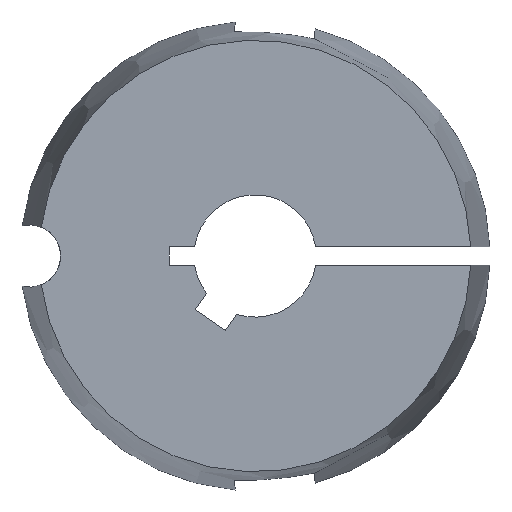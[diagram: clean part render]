
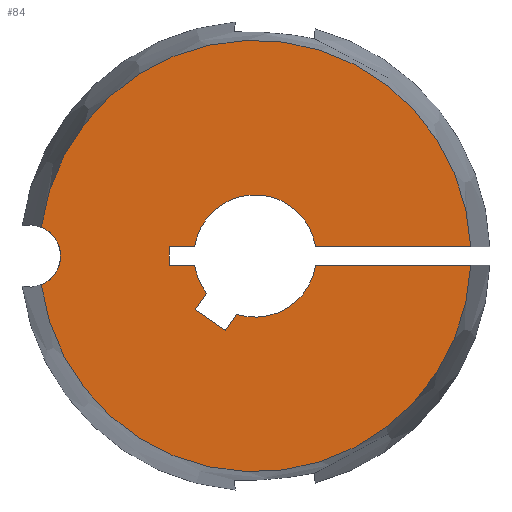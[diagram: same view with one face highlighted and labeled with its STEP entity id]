
A CAD part, left-side view. The second image highlights one B-rep face of the part: STEP entity #84.
In plain terms, the highlighted planar face has unit normal (-1, 0, 0).
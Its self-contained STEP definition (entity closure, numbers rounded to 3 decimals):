
#84 = ADVANCED_FACE( '', ( #114 ), #115, .F. );
#114 = FACE_OUTER_BOUND( '', #154, .T. );
#115 = PLANE( '', #155 );
#154 = EDGE_LOOP( '', ( #251, #252, #253, #254, #255, #256, #257, #258, #259, #260, #261, #262, #263, #264 ) );
#155 = AXIS2_PLACEMENT_3D( '', #265, #266, #267 );
#251 = ORIENTED_EDGE( '', *, *, #349, .T. );
#252 = ORIENTED_EDGE( '', *, *, #381, .F. );
#253 = ORIENTED_EDGE( '', *, *, #352, .T. );
#254 = ORIENTED_EDGE( '', *, *, #365, .T. );
#255 = ORIENTED_EDGE( '', *, *, #363, .T. );
#256 = ORIENTED_EDGE( '', *, *, #360, .T. );
#257 = ORIENTED_EDGE( '', *, *, #369, .T. );
#258 = ORIENTED_EDGE( '', *, *, #382, .T. );
#259 = ORIENTED_EDGE( '', *, *, #383, .T. );
#260 = ORIENTED_EDGE( '', *, *, #384, .T. );
#261 = ORIENTED_EDGE( '', *, *, #385, .T. );
#262 = ORIENTED_EDGE( '', *, *, #386, .T. );
#263 = ORIENTED_EDGE( '', *, *, #354, .T. );
#264 = ORIENTED_EDGE( '', *, *, #387, .F. );
#265 = CARTESIAN_POINT( '', ( -22.3, 0., 0. ) );
#266 = DIRECTION( '', ( 1., 0., 0. ) );
#267 = DIRECTION( '', ( 0., 0., -1. ) );
#349 = EDGE_CURVE( '', #402, #407, #409, .T. );
#352 = EDGE_CURVE( '', #415, #413, #416, .T. );
#354 = EDGE_CURVE( '', #418, #419, #420, .T. );
#360 = EDGE_CURVE( '', #431, #429, #432, .T. );
#363 = EDGE_CURVE( '', #436, #431, #437, .T. );
#365 = EDGE_CURVE( '', #413, #436, #439, .T. );
#369 = EDGE_CURVE( '', #429, #443, #445, .T. );
#381 = EDGE_CURVE( '', #415, #407, #465, .T. );
#382 = EDGE_CURVE( '', #443, #466, #467, .T. );
#383 = EDGE_CURVE( '', #466, #468, #469, .T. );
#384 = EDGE_CURVE( '', #468, #470, #471, .T. );
#385 = EDGE_CURVE( '', #470, #472, #473, .T. );
#386 = EDGE_CURVE( '', #472, #418, #474, .T. );
#387 = EDGE_CURVE( '', #402, #419, #475, .T. );
#402 = VERTEX_POINT( '', #513 );
#407 = VERTEX_POINT( '', #523 );
#409 = CIRCLE( '', #530, 2.55 );
#413 = VERTEX_POINT( '', #535 );
#415 = VERTEX_POINT( '', #538 );
#416 = LINE( '', #539, #540 );
#418 = VERTEX_POINT( '', #548 );
#419 = VERTEX_POINT( '', #549 );
#420 = LINE( '', #550, #551 );
#429 = VERTEX_POINT( '', #569 );
#431 = VERTEX_POINT( '', #572 );
#432 = LINE( '', #573, #574 );
#436 = VERTEX_POINT( '', #580 );
#437 = LINE( '', #581, #582 );
#439 = CIRCLE( '', #585, 5. );
#443 = VERTEX_POINT( '', #590 );
#445 = LINE( '', #593, #594 );
#465 = CIRCLE( '', #617, 17.641 );
#466 = VERTEX_POINT( '', #618 );
#467 = CIRCLE( '', #619, 5. );
#468 = VERTEX_POINT( '', #620 );
#469 = LINE( '', #621, #622 );
#470 = VERTEX_POINT( '', #623 );
#471 = LINE( '', #624, #625 );
#472 = VERTEX_POINT( '', #626 );
#473 = LINE( '', #627, #628 );
#474 = CIRCLE( '', #629, 5. );
#475 = CIRCLE( '', #630, 17.641 );
#513 = CARTESIAN_POINT( '', ( -22.3, 17.483, 2.355 ) );
#523 = CARTESIAN_POINT( '', ( -22.3, 17.483, -2.355 ) );
#530 = AXIS2_PLACEMENT_3D( '', #686, #687, #688 );
#535 = CARTESIAN_POINT( '', ( -22.3, -4.943, -0.75 ) );
#538 = CARTESIAN_POINT( '', ( -22.3, -17.625, -0.75 ) );
#539 = CARTESIAN_POINT( '', ( -22.3, -19.2, -0.75 ) );
#540 = VECTOR( '', #691, 1000. );
#548 = CARTESIAN_POINT( '', ( -22.3, -4.943, 0.75 ) );
#549 = CARTESIAN_POINT( '', ( -22.3, -17.625, 0.75 ) );
#550 = CARTESIAN_POINT( '', ( -22.3, 0., 0.75 ) );
#551 = VECTOR( '', #692, 1000. );
#569 = CARTESIAN_POINT( '', ( -22.3, 4.9, -4.382 ) );
#572 = CARTESIAN_POINT( '', ( -22.3, 2.442, -6.103 ) );
#573 = CARTESIAN_POINT( '', ( -22.3, 2.442, -6.103 ) );
#574 = VECTOR( '', #697, 1000. );
#580 = CARTESIAN_POINT( '', ( -22.3, 1.507, -4.767 ) );
#581 = CARTESIAN_POINT( '', ( -22.3, 1.507, -4.767 ) );
#582 = VECTOR( '', #700, 1000. );
#585 = AXIS2_PLACEMENT_3D( '', #702, #703, #704 );
#590 = CARTESIAN_POINT( '', ( -22.3, 3.965, -3.047 ) );
#593 = CARTESIAN_POINT( '', ( -22.3, 4.9, -4.382 ) );
#594 = VECTOR( '', #710, 1000. );
#617 = AXIS2_PLACEMENT_3D( '', #738, #739, #740 );
#618 = CARTESIAN_POINT( '', ( -22.3, 4.943, -0.75 ) );
#619 = AXIS2_PLACEMENT_3D( '', #741, #742, #743 );
#620 = CARTESIAN_POINT( '', ( -22.3, 7., -0.75 ) );
#621 = CARTESIAN_POINT( '', ( -22.3, 0., -0.75 ) );
#622 = VECTOR( '', #744, 1000. );
#623 = CARTESIAN_POINT( '', ( -22.3, 7., 0.75 ) );
#624 = CARTESIAN_POINT( '', ( -22.3, 7., -0.75 ) );
#625 = VECTOR( '', #745, 1000. );
#626 = CARTESIAN_POINT( '', ( -22.3, 4.943, 0.75 ) );
#627 = CARTESIAN_POINT( '', ( -22.3, 7., 0.75 ) );
#628 = VECTOR( '', #746, 1000. );
#629 = AXIS2_PLACEMENT_3D( '', #747, #748, #749 );
#630 = AXIS2_PLACEMENT_3D( '', #750, #751, #752 );
#686 = CARTESIAN_POINT( '', ( -22.3, 18.46, 0. ) );
#687 = DIRECTION( '', ( 1., 0., 0. ) );
#688 = DIRECTION( '', ( 0., 1., 0. ) );
#691 = DIRECTION( '', ( 0., 1., 0. ) );
#692 = DIRECTION( '', ( 0., -1., 0. ) );
#697 = DIRECTION( '', ( 0., 0.819, 0.574 ) );
#700 = DIRECTION( '', ( 0., 0.574, -0.819 ) );
#702 = CARTESIAN_POINT( '', ( -22.3, 0., 0. ) );
#703 = DIRECTION( '', ( 1., 0., 0. ) );
#704 = DIRECTION( '', ( 0., 0., -1. ) );
#710 = DIRECTION( '', ( 0., -0.574, 0.819 ) );
#738 = CARTESIAN_POINT( '', ( -22.3, 0., 0. ) );
#739 = DIRECTION( '', ( 1., 0., 0. ) );
#740 = DIRECTION( '', ( 0., 0., -1. ) );
#741 = CARTESIAN_POINT( '', ( -22.3, 0., 0. ) );
#742 = DIRECTION( '', ( 1., 0., 0. ) );
#743 = DIRECTION( '', ( 0., 0., -1. ) );
#744 = DIRECTION( '', ( 0., 1., 0. ) );
#745 = DIRECTION( '', ( 0., 0., 1. ) );
#746 = DIRECTION( '', ( 0., -1., 0. ) );
#747 = CARTESIAN_POINT( '', ( -22.3, 0., 0. ) );
#748 = DIRECTION( '', ( 1., 0., 0. ) );
#749 = DIRECTION( '', ( 0., 0., -1. ) );
#750 = CARTESIAN_POINT( '', ( -22.3, 0., 0. ) );
#751 = DIRECTION( '', ( 1., 0., 0. ) );
#752 = DIRECTION( '', ( 0., 0., -1. ) );
